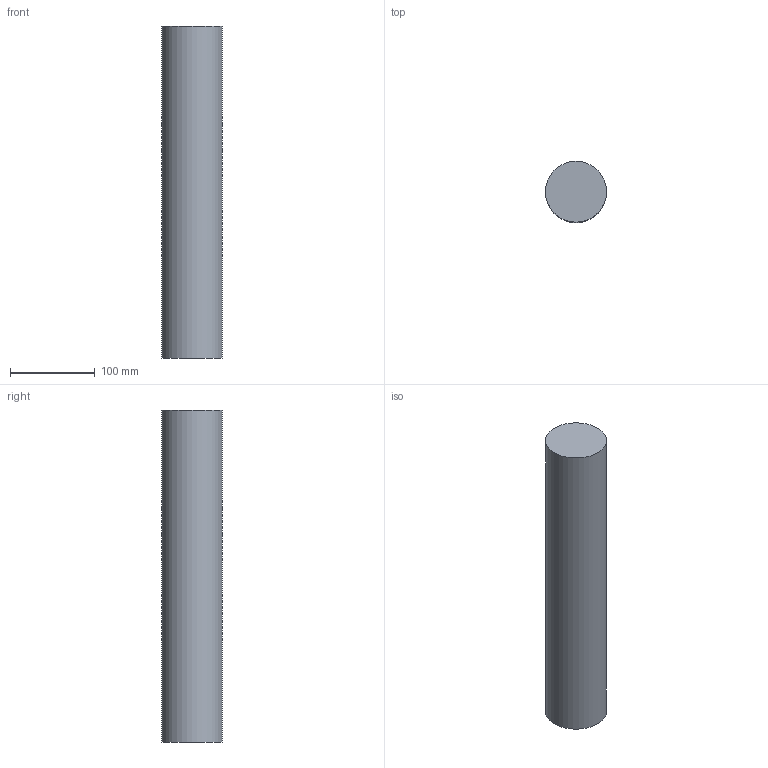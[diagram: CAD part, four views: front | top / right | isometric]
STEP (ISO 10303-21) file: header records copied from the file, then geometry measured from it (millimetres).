
FILE_DESCRIPTION(('Open CASCADE Model'),'2;1');
FILE_NAME('Open CASCADE Shape Model','2026-10-10T15:34:57',('Author'),( 'Open CASCADE'),'Open CASCADE STEP processor 7.9','Open CASCADE 7.9' ,'Unknown');
FILE_SCHEMA(('AUTOMOTIVE_DESIGN { 1 0 10303 214 1 1 1 1 }'));
Length unit declared in the file: millimetre
Products named in the file (1): Open CASCADE STEP translator 7.9 12
Bounding box: 72 x 72 x 392.25 mm (x, y, z)
Volume: 1597047.5 mm3; surface area: 96867.9 mm2
Topology: 1 solids, 1 shells, 3 faces, 3 edges, 2 vertices
Faces by surface type: plane 2, cylinder 1
Full cylindrical faces by diameter (mm): 72 x1
Entity records: 108 total; most frequent: DIRECTION 19, CARTESIAN_POINT 15, AXIS2_PLACEMENT_3D 6, ORIENTED_EDGE 6, PCURVE 6, DEFINITIONAL_REPRESENTATION 6, LINE 5, VECTOR 5
